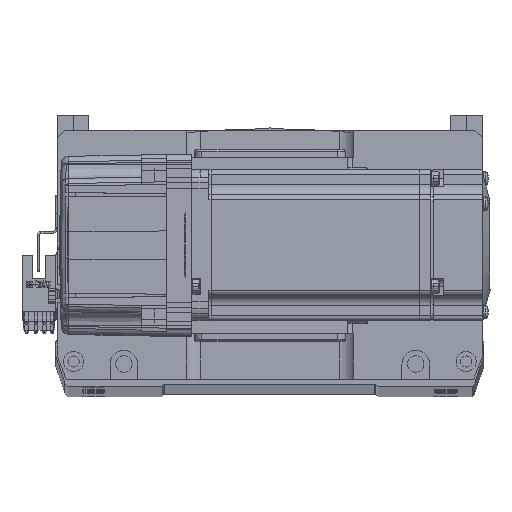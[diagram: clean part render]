
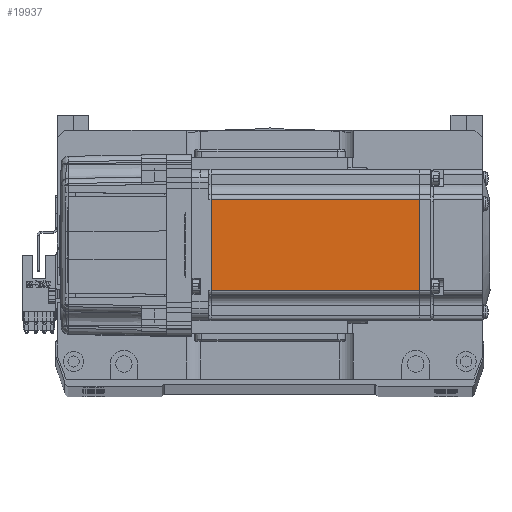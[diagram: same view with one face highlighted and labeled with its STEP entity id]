
A CAD part, top view. The second image highlights one B-rep face of the part: STEP entity #19937.
In plain terms, the highlighted planar face has unit normal (0, 0, 1) as drawn and (0, -1, 0) by its records, which use the part's own axes.
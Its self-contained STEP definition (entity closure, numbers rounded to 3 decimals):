
#1775 = LINE ( 'NONE', #50003, #52231 ) ;
#2684 = DIRECTION ( 'NONE',  ( 0., 0., -1. ) ) ;
#3279 = ORIENTED_EDGE ( 'NONE', *, *, #41665, .T. ) ;
#8949 = DIRECTION ( 'NONE',  ( 0., 0., -1. ) ) ;
#9724 = LINE ( 'NONE', #47638, #19644 ) ;
#12935 = CARTESIAN_POINT ( 'NONE',  ( -90.45, -30., 18. ) ) ;
#13991 = PLANE ( 'NONE',  #24945 ) ;
#15145 = ORIENTED_EDGE ( 'NONE', *, *, #51581, .T. ) ;
#18445 = ORIENTED_EDGE ( 'NONE', *, *, #23470, .T. ) ;
#19015 = CARTESIAN_POINT ( 'NONE',  ( -7.75, -30., -18. ) ) ;
#19644 = VECTOR ( 'NONE', #27309, 1000. ) ;
#19937 = ADVANCED_FACE ( 'NONE', ( #47102 ), #13991, .T. ) ;
#20294 = CARTESIAN_POINT ( 'NONE',  ( -6.5, -30., 18. ) ) ;
#21106 = CARTESIAN_POINT ( 'NONE',  ( -7.75, -30., 18. ) ) ;
#22203 = VERTEX_POINT ( 'NONE', #19015 ) ;
#23470 = EDGE_CURVE ( 'NONE', #22203, #43527, #9724, .T. ) ;
#24945 = AXIS2_PLACEMENT_3D ( 'NONE', #61161, #60915, #8949 ) ;
#27309 = DIRECTION ( 'NONE',  ( 0., 0., 1. ) ) ;
#30507 = DIRECTION ( 'NONE',  ( -1., 0., 0. ) ) ;
#31936 = EDGE_LOOP ( 'NONE', ( #18445, #15145, #37799, #3279 ) ) ;
#33423 = EDGE_CURVE ( 'NONE', #62774, #63982, #1775, .T. ) ;
#37799 = ORIENTED_EDGE ( 'NONE', *, *, #33423, .T. ) ;
#41665 = EDGE_CURVE ( 'NONE', #63982, #22203, #47656, .T. ) ;
#41740 = VECTOR ( 'NONE', #30507, 1000. ) ;
#43527 = VERTEX_POINT ( 'NONE', #21106 ) ;
#45375 = CARTESIAN_POINT ( 'NONE',  ( -90.45, -30., -18. ) ) ;
#46698 = LINE ( 'NONE', #20294, #41740 ) ;
#47102 = FACE_OUTER_BOUND ( 'NONE', #31936, .T. ) ;
#47638 = CARTESIAN_POINT ( 'NONE',  ( -7.75, -30., -25. ) ) ;
#47656 = LINE ( 'NONE', #60447, #48515 ) ;
#48515 = VECTOR ( 'NONE', #50286, 1000. ) ;
#50003 = CARTESIAN_POINT ( 'NONE',  ( -90.45, -30., -25. ) ) ;
#50286 = DIRECTION ( 'NONE',  ( 1., 0., 0. ) ) ;
#51581 = EDGE_CURVE ( 'NONE', #43527, #62774, #46698, .T. ) ;
#52231 = VECTOR ( 'NONE', #2684, 1000. ) ;
#60447 = CARTESIAN_POINT ( 'NONE',  ( -6.5, -30., -18. ) ) ;
#60915 = DIRECTION ( 'NONE',  ( 0., -1., 0. ) ) ;
#61161 = CARTESIAN_POINT ( 'NONE',  ( -6.5, -30., -25. ) ) ;
#62774 = VERTEX_POINT ( 'NONE', #12935 ) ;
#63982 = VERTEX_POINT ( 'NONE', #45375 ) ;
